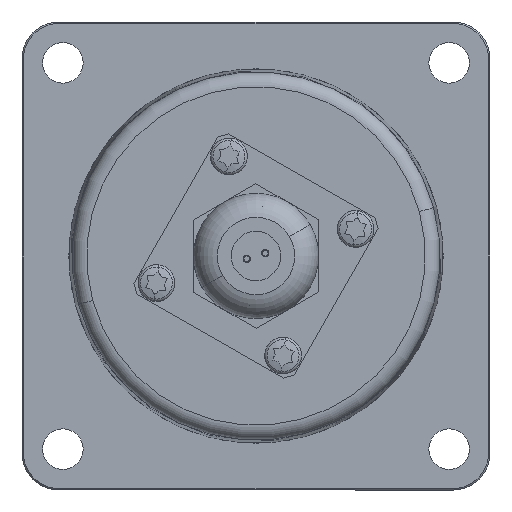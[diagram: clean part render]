
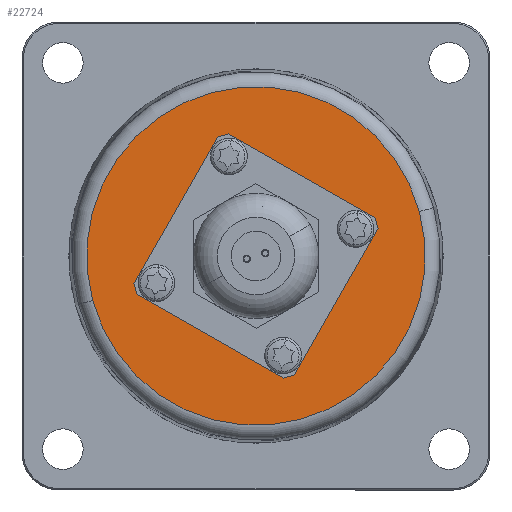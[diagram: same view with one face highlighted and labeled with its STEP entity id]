
A CAD part, left-side view. The second image highlights one B-rep face of the part: STEP entity #22724.
In plain terms, the highlighted planar face has unit normal (-1, 0, 0).
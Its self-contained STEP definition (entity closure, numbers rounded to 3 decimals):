
#16516 = CARTESIAN_POINT ( 'NONE',  ( -21., 22.167, -6.03 ) ) ;
#16517 = CARTESIAN_POINT ( 'NONE',  ( -21., -22.167, 6.03 ) ) ;
#16518 = DIRECTION ( 'NONE',  ( 0., 0.965, -0.262 ) ) ;
#16519 = DIRECTION ( 'NONE',  ( -1., 0., 0. ) ) ;
#16520 = CARTESIAN_POINT ( 'NONE',  ( -21., 0., 0. ) ) ;
#16521 = AXIS2_PLACEMENT_3D ( 'NONE', #16520, #16519, #16518 ) ;
#16526 = CIRCLE ( 'NONE', #16521, 22.972 ) ;
#16697 = CARTESIAN_POINT ( 'NONE',  ( -21., -14.85, 4.039 ) ) ;
#16758 = CARTESIAN_POINT ( 'NONE',  ( -21., -5.015, -13.145 ) ) ;
#16759 = DIRECTION ( 'NONE',  ( 0., 0.965, -0.262 ) ) ;
#16760 = DIRECTION ( 'NONE',  ( 1., 0., 0. ) ) ;
#16761 = CARTESIAN_POINT ( 'NONE',  ( -21., -3.675, -13.51 ) ) ;
#16762 = AXIS2_PLACEMENT_3D ( 'NONE', #16761, #16760, #16759 ) ;
#16763 = CIRCLE ( 'NONE', #16762, 1.389 ) ;
#16764 = CARTESIAN_POINT ( 'NONE',  ( -21., -2.335, -13.874 ) ) ;
#16773 = CARTESIAN_POINT ( 'NONE',  ( -21., 12.17, -3.31 ) ) ;
#16774 = DIRECTION ( 'NONE',  ( 0., 0.965, -0.262 ) ) ;
#16775 = DIRECTION ( 'NONE',  ( 1., 0., 0. ) ) ;
#16776 = CARTESIAN_POINT ( 'NONE',  ( -21., 13.51, -3.675 ) ) ;
#16777 = AXIS2_PLACEMENT_3D ( 'NONE', #16776, #16775, #16774 ) ;
#16778 = CIRCLE ( 'NONE', #16777, 1.389 ) ;
#16779 = CARTESIAN_POINT ( 'NONE',  ( -21., 14.85, -4.039 ) ) ;
#16854 = CARTESIAN_POINT ( 'NONE',  ( -21., 2.335, 13.874 ) ) ;
#16855 = DIRECTION ( 'NONE',  ( 0., 0.965, -0.262 ) ) ;
#16856 = DIRECTION ( 'NONE',  ( 1., 0., 0. ) ) ;
#16857 = CARTESIAN_POINT ( 'NONE',  ( -21., 3.675, 13.51 ) ) ;
#16858 = AXIS2_PLACEMENT_3D ( 'NONE', #16857, #16856, #16855 ) ;
#16859 = CIRCLE ( 'NONE', #16858, 1.389 ) ;
#16860 = CARTESIAN_POINT ( 'NONE',  ( -21., 5.015, 13.145 ) ) ;
#17003 = DIRECTION ( 'NONE',  ( 0., 0.965, -0.262 ) ) ;
#17005 = DIRECTION ( 'NONE',  ( 1., 0., 0. ) ) ;
#17006 = CARTESIAN_POINT ( 'NONE',  ( -21., -13.51, 3.675 ) ) ;
#17007 = AXIS2_PLACEMENT_3D ( 'NONE', #17006, #17005, #17003 ) ;
#17008 = CIRCLE ( 'NONE', #17007, 1.389 ) ;
#17010 = CARTESIAN_POINT ( 'NONE',  ( -21., -12.17, 3.31 ) ) ;
#17519 = DIRECTION ( 'NONE',  ( 0., -0.965, 0.262 ) ) ;
#17520 = DIRECTION ( 'NONE',  ( -1., 0., 0. ) ) ;
#17521 = CARTESIAN_POINT ( 'NONE',  ( -21., 0., 0. ) ) ;
#17522 = AXIS2_PLACEMENT_3D ( 'NONE', #17521, #17520, #17519 ) ;
#17523 = CIRCLE ( 'NONE', #17522, 11.5 ) ;
#17543 = CARTESIAN_POINT ( 'NONE',  ( -21., -11.097, 3.018 ) ) ;
#17546 = CARTESIAN_POINT ( 'NONE',  ( -21., 11.097, -3.018 ) ) ;
#18175 = DIRECTION ( 'NONE',  ( 0., -0.965, 0.262 ) ) ;
#18176 = DIRECTION ( 'NONE',  ( -1., 0., 0. ) ) ;
#18177 = CARTESIAN_POINT ( 'NONE',  ( -21., 0., 0. ) ) ;
#18178 = AXIS2_PLACEMENT_3D ( 'NONE', #18177, #18176, #18175 ) ;
#18179 = CIRCLE ( 'NONE', #18178, 11.5 ) ;
#18182 = DIRECTION ( 'NONE',  ( 0., 0.965, -0.262 ) ) ;
#18183 = DIRECTION ( 'NONE',  ( -1., 0., 0. ) ) ;
#18184 = CARTESIAN_POINT ( 'NONE',  ( -21., 0., 0. ) ) ;
#18185 = AXIS2_PLACEMENT_3D ( 'NONE', #18184, #18183, #18182 ) ;
#18186 = CIRCLE ( 'NONE', #18185, 22.972 ) ;
#18195 = DIRECTION ( 'NONE',  ( 0., 0.965, -0.262 ) ) ;
#18196 = DIRECTION ( 'NONE',  ( 1., 0., 0. ) ) ;
#18197 = CARTESIAN_POINT ( 'NONE',  ( -21., -13.51, 3.675 ) ) ;
#18198 = AXIS2_PLACEMENT_3D ( 'NONE', #18197, #18196, #18195 ) ;
#18199 = CIRCLE ( 'NONE', #18198, 1.389 ) ;
#18201 = DIRECTION ( 'NONE',  ( 0., 0.965, -0.262 ) ) ;
#18202 = DIRECTION ( 'NONE',  ( 1., 0., 0. ) ) ;
#18203 = CARTESIAN_POINT ( 'NONE',  ( -21., 3.675, 13.51 ) ) ;
#18204 = AXIS2_PLACEMENT_3D ( 'NONE', #18203, #18202, #18201 ) ;
#18205 = CIRCLE ( 'NONE', #18204, 1.389 ) ;
#18207 = DIRECTION ( 'NONE',  ( 0., 0.965, -0.262 ) ) ;
#18208 = DIRECTION ( 'NONE',  ( 1., 0., 0. ) ) ;
#18209 = CARTESIAN_POINT ( 'NONE',  ( -21., -3.675, -13.51 ) ) ;
#18210 = AXIS2_PLACEMENT_3D ( 'NONE', #18209, #18208, #18207 ) ;
#18211 = CIRCLE ( 'NONE', #18210, 1.389 ) ;
#18267 = FACE_BOUND ( 'NONE', #22685, .T. ) ;
#18268 = FACE_OUTER_BOUND ( 'NONE', #22681, .T. ) ;
#18269 = FACE_BOUND ( 'NONE', #22700, .T. ) ;
#18270 = FACE_BOUND ( 'NONE', #22696, .T. ) ;
#18271 = FACE_BOUND ( 'NONE', #22729, .T. ) ;
#18272 = FACE_BOUND ( 'NONE', #22725, .T. ) ;
#18313 = DIRECTION ( 'NONE',  ( 0., 0.965, -0.262 ) ) ;
#18314 = DIRECTION ( 'NONE',  ( 1., 0., 0. ) ) ;
#18315 = AXIS2_PLACEMENT_3D ( 'NONE', #18321, #18314, #18313 ) ;
#18316 = CIRCLE ( 'NONE', #18315, 1.389 ) ;
#18317 = DIRECTION ( 'NONE',  ( 0., 0.965, -0.262 ) ) ;
#18318 = DIRECTION ( 'NONE',  ( 1., 0., 0. ) ) ;
#18319 = CARTESIAN_POINT ( 'NONE',  ( -21., 0., 0. ) ) ;
#18320 = AXIS2_PLACEMENT_3D ( 'NONE', #18319, #18318, #18317 ) ;
#18321 = CARTESIAN_POINT ( 'NONE',  ( -21., 13.51, -3.675 ) ) ;
#18322 = PLANE ( 'NONE',  #18320 ) ;
#22206 = EDGE_CURVE ( 'NONE', #22207, #22208, #16526, .T. ) ;
#22207 = VERTEX_POINT ( 'NONE', #16517 ) ;
#22208 = VERTEX_POINT ( 'NONE', #16516 ) ;
#22264 = VERTEX_POINT ( 'NONE', #16697 ) ;
#22274 = VERTEX_POINT ( 'NONE', #16764 ) ;
#22276 = EDGE_CURVE ( 'NONE', #22277, #22274, #16763, .T. ) ;
#22277 = VERTEX_POINT ( 'NONE', #16758 ) ;
#22288 = VERTEX_POINT ( 'NONE', #16779 ) ;
#22290 = EDGE_CURVE ( 'NONE', #22291, #22288, #16778, .T. ) ;
#22291 = VERTEX_POINT ( 'NONE', #16773 ) ;
#22319 = VERTEX_POINT ( 'NONE', #16860 ) ;
#22321 = EDGE_CURVE ( 'NONE', #22322, #22319, #16859, .T. ) ;
#22322 = VERTEX_POINT ( 'NONE', #16854 ) ;
#22344 = VERTEX_POINT ( 'NONE', #17010 ) ;
#22346 = EDGE_CURVE ( 'NONE', #22264, #22344, #17008, .T. ) ;
#22492 = EDGE_CURVE ( 'NONE', #22505, #22509, #17523, .T. ) ;
#22505 = VERTEX_POINT ( 'NONE', #17546 ) ;
#22509 = VERTEX_POINT ( 'NONE', #17543 ) ;
#22681 = EDGE_LOOP ( 'NONE', ( #22682, #22684 ) ) ;
#22682 = ORIENTED_EDGE ( 'NONE', *, *, #22683, .T. ) ;
#22683 = EDGE_CURVE ( 'NONE', #22208, #22207, #18186, .T. ) ;
#22684 = ORIENTED_EDGE ( 'NONE', *, *, #22206, .T. ) ;
#22685 = EDGE_LOOP ( 'NONE', ( #22686, #22688 ) ) ;
#22686 = ORIENTED_EDGE ( 'NONE', *, *, #22687, .F. ) ;
#22687 = EDGE_CURVE ( 'NONE', #22509, #22505, #18179, .T. ) ;
#22688 = ORIENTED_EDGE ( 'NONE', *, *, #22492, .F. ) ;
#22693 = ORIENTED_EDGE ( 'NONE', *, *, #22276, .T. ) ;
#22694 = ORIENTED_EDGE ( 'NONE', *, *, #22695, .T. ) ;
#22695 = EDGE_CURVE ( 'NONE', #22274, #22277, #18211, .T. ) ;
#22696 = EDGE_LOOP ( 'NONE', ( #22697, #22698 ) ) ;
#22697 = ORIENTED_EDGE ( 'NONE', *, *, #22321, .T. ) ;
#22698 = ORIENTED_EDGE ( 'NONE', *, *, #22699, .T. ) ;
#22699 = EDGE_CURVE ( 'NONE', #22319, #22322, #18205, .T. ) ;
#22700 = EDGE_LOOP ( 'NONE', ( #22701, #22702 ) ) ;
#22701 = ORIENTED_EDGE ( 'NONE', *, *, #22346, .T. ) ;
#22702 = ORIENTED_EDGE ( 'NONE', *, *, #22703, .T. ) ;
#22703 = EDGE_CURVE ( 'NONE', #22344, #22264, #18199, .T. ) ;
#22724 = ADVANCED_FACE ( 'NONE', ( #18272, #18271, #18270, #18269, #18268, #18267 ), #18322, .F. ) ;
#22725 = EDGE_LOOP ( 'NONE', ( #22726, #22727 ) ) ;
#22726 = ORIENTED_EDGE ( 'NONE', *, *, #22290, .T. ) ;
#22727 = ORIENTED_EDGE ( 'NONE', *, *, #22728, .T. ) ;
#22728 = EDGE_CURVE ( 'NONE', #22288, #22291, #18316, .T. ) ;
#22729 = EDGE_LOOP ( 'NONE', ( #22693, #22694 ) ) ;
